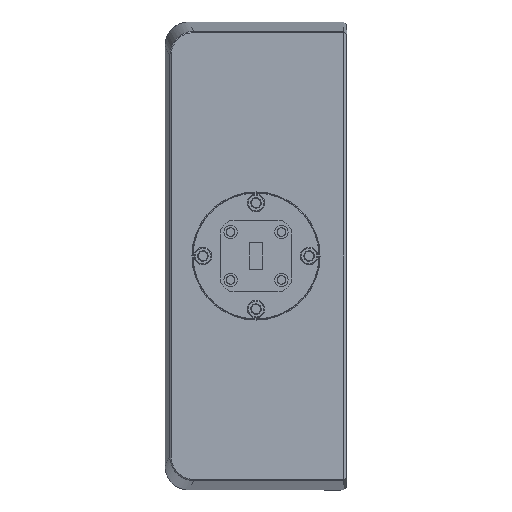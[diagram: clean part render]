
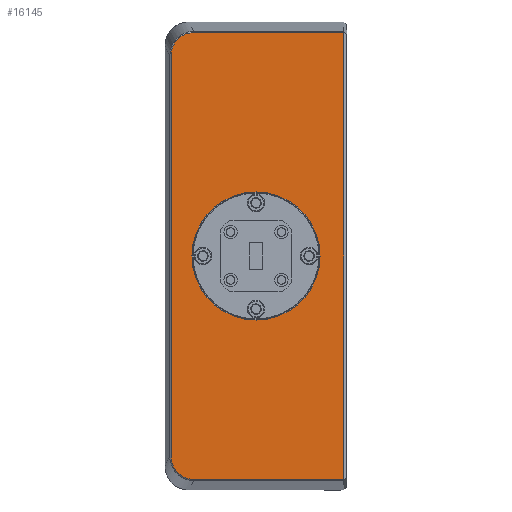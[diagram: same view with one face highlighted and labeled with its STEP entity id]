
A CAD part, left-side view. The second image highlights one B-rep face of the part: STEP entity #16145.
In plain terms, the highlighted planar face has unit normal (-1, 0, 0).
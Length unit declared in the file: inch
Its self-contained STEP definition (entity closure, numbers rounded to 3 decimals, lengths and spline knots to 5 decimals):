
#116 = AXIS2_PLACEMENT_3D ( 'NONE', #36872, #25682, #54497 ) ;
#216 = EDGE_CURVE ( 'NONE', #46378, #32153, #57802, .T. ) ;
#867 = VECTOR ( 'NONE', #53204, 39.37008 ) ;
#1633 = LINE ( 'NONE', #31116, #867 ) ;
#1985 = CARTESIAN_POINT ( 'NONE',  ( -2.75, 9.21525, -2.12976 ) ) ;
#3635 = EDGE_CURVE ( 'NONE', #73770, #46819, #1633, .T. ) ;
#5528 = EDGE_LOOP ( 'NONE', ( #38827, #67004, #17348, #45158, #53009, #73974 ) ) ;
#6521 = DIRECTION ( 'NONE',  ( 0., 0., -1. ) ) ;
#6856 = CARTESIAN_POINT ( 'NONE',  ( -2.75, 8.32758, 0. ) ) ;
#8415 = CARTESIAN_POINT ( 'NONE',  ( -2.75, 9.1247, -2.28822 ) ) ;
#8781 = CARTESIAN_POINT ( 'NONE',  ( -2.75, 9.21525, -2.09869 ) ) ;
#9265 = LINE ( 'NONE', #20571, #26233 ) ;
#11328 = ORIENTED_EDGE ( 'NONE', *, *, #13509, .F. ) ;
#11419 = CARTESIAN_POINT ( 'NONE',  ( -2.75, 9.21525, 0. ) ) ;
#12276 = CARTESIAN_POINT ( 'NONE',  ( -2.75, 9.04166, 2.32944 ) ) ;
#13281 = VECTOR ( 'NONE', #30790, 39.37008 ) ;
#13509 = EDGE_CURVE ( 'NONE', #32153, #46378, #36986, .T. ) ;
#13651 = EDGE_CURVE ( 'NONE', #33827, #73770, #52902, .T. ) ;
#13713 = CARTESIAN_POINT ( 'NONE',  ( -2.75, 9.01084, -2.33561 ) ) ;
#15899 = EDGE_LOOP ( 'NONE', ( #11328, #16124 ) ) ;
#16124 = ORIENTED_EDGE ( 'NONE', *, *, #216, .F. ) ;
#16145 = ADVANCED_FACE ( 'NONE', ( #49700, #67001 ), #39213, .F. ) ;
#16601 = CARTESIAN_POINT ( 'NONE',  ( -2.75, 8.32758, 0.67 ) ) ;
#16775 = VERTEX_POINT ( 'NONE', #42310 ) ;
#16777 = CARTESIAN_POINT ( 'NONE',  ( -2.75, 9.1247, 2.28822 ) ) ;
#17154 = CARTESIAN_POINT ( 'NONE',  ( -2.75, 9.20913, 2.16087 ) ) ;
#17348 = ORIENTED_EDGE ( 'NONE', *, *, #67782, .T. ) ;
#17834 = LINE ( 'NONE', #11419, #65521 ) ;
#18256 = CARTESIAN_POINT ( 'NONE',  ( -2.75, 9.21525, 2.09869 ) ) ;
#19379 = CARTESIAN_POINT ( 'NONE',  ( -2.75, 9.18562, -2.21814 ) ) ;
#19775 = CARTESIAN_POINT ( 'NONE',  ( -2.75, 8.32758, 2.3356 ) ) ;
#20571 = CARTESIAN_POINT ( 'NONE',  ( -2.75, 7.40758, 0. ) ) ;
#22133 = CARTESIAN_POINT ( 'NONE',  ( -2.75, 8.97989, 2.3356 ) ) ;
#25682 = DIRECTION ( 'NONE',  ( -1., 0., 0. ) ) ;
#26233 = VECTOR ( 'NONE', #37471, 39.37008 ) ;
#26557 = CARTESIAN_POINT ( 'NONE',  ( -2.75, 9.20912, -2.16087 ) ) ;
#27829 = CARTESIAN_POINT ( 'NONE',  ( -2.75, 9.21525, 2.12984 ) ) ;
#30790 = DIRECTION ( 'NONE',  ( 0., 1., 0. ) ) ;
#31116 = CARTESIAN_POINT ( 'NONE',  ( -2.75, 8.32758, -2.3356 ) ) ;
#32153 = VERTEX_POINT ( 'NONE', #16601 ) ;
#33827 = VERTEX_POINT ( 'NONE', #48726 ) ;
#34347 = DIRECTION ( 'NONE',  ( 1., 0., 0. ) ) ;
#35952 = DIRECTION ( 'NONE',  ( -1., 0., 0. ) ) ;
#36872 = CARTESIAN_POINT ( 'NONE',  ( -2.75, 8.32758, 0. ) ) ;
#36986 = CIRCLE ( 'NONE', #42994, 0.67 ) ;
#37012 = CARTESIAN_POINT ( 'NONE',  ( -2.75, 8.97989, -2.3356 ) ) ;
#37332 = CARTESIAN_POINT ( 'NONE',  ( -2.75, 8.97989, -2.3356 ) ) ;
#37471 = DIRECTION ( 'NONE',  ( 0., 0., 1. ) ) ;
#38484 = CARTESIAN_POINT ( 'NONE',  ( -2.75, 8.97989, 2.3356 ) ) ;
#38827 = ORIENTED_EDGE ( 'NONE', *, *, #3635, .T. ) ;
#39213 = PLANE ( 'NONE',  #66568 ) ;
#39711 = CARTESIAN_POINT ( 'NONE',  ( -2.75, 9.18562, 2.21814 ) ) ;
#40640 = EDGE_CURVE ( 'NONE', #63647, #33827, #17834, .T. ) ;
#40958 = B_SPLINE_CURVE_WITH_KNOTS ( 'NONE', 3,
 ( #22133, #50977, #12276, #45728, #16777, #68634, #39711, #17154, #27829, #50601 ),
 .UNSPECIFIED., .F., .F.,
 ( 4, 2, 2, 2, 4 ),
 ( 0., 0.25, 0.5, 0.75, 1. ),
 .UNSPECIFIED. ) ;
#42310 = CARTESIAN_POINT ( 'NONE',  ( -2.75, 7.40758, 2.3356 ) ) ;
#42994 = AXIS2_PLACEMENT_3D ( 'NONE', #59164, #35952, #64454 ) ;
#45158 = ORIENTED_EDGE ( 'NONE', *, *, #67726, .T. ) ;
#45728 = CARTESIAN_POINT ( 'NONE',  ( -2.75, 9.09856, 2.30578 ) ) ;
#46378 = VERTEX_POINT ( 'NONE', #64219 ) ;
#46819 = VERTEX_POINT ( 'NONE', #68177 ) ;
#47121 = EDGE_CURVE ( 'NONE', #46819, #16775, #9265, .T. ) ;
#47216 = LINE ( 'NONE', #19775, #13281 ) ;
#48609 = CARTESIAN_POINT ( 'NONE',  ( -2.75, 9.16817, -2.24446 ) ) ;
#48726 = CARTESIAN_POINT ( 'NONE',  ( -2.75, 9.21525, -2.09869 ) ) ;
#48982 = CARTESIAN_POINT ( 'NONE',  ( -2.75, 9.04167, -2.32944 ) ) ;
#49700 = FACE_BOUND ( 'NONE', #15899, .T. ) ;
#50601 = CARTESIAN_POINT ( 'NONE',  ( -2.75, 9.21525, 2.09869 ) ) ;
#50977 = CARTESIAN_POINT ( 'NONE',  ( -2.75, 9.01076, 2.33561 ) ) ;
#52902 = B_SPLINE_CURVE_WITH_KNOTS ( 'NONE', 3,
 ( #8781, #1985, #26557, #19379, #48609, #8415, #54640, #48982, #13713, #37012 ),
 .UNSPECIFIED., .F., .F.,
 ( 4, 2, 2, 2, 4 ),
 ( 0., 0.25, 0.5, 0.75, 1. ),
 .UNSPECIFIED. ) ;
#53009 = ORIENTED_EDGE ( 'NONE', *, *, #40640, .T. ) ;
#53204 = DIRECTION ( 'NONE',  ( 0., -1., 0. ) ) ;
#54497 = DIRECTION ( 'NONE',  ( 0., 0., 1. ) ) ;
#54640 = CARTESIAN_POINT ( 'NONE',  ( -2.75, 9.09856, -2.30578 ) ) ;
#57802 = CIRCLE ( 'NONE', #116, 0.67 ) ;
#59164 = CARTESIAN_POINT ( 'NONE',  ( -2.75, 8.32758, 0. ) ) ;
#63232 = DIRECTION ( 'NONE',  ( 0., 0., -1. ) ) ;
#63647 = VERTEX_POINT ( 'NONE', #18256 ) ;
#64219 = CARTESIAN_POINT ( 'NONE',  ( -2.75, 8.32758, -0.67 ) ) ;
#64454 = DIRECTION ( 'NONE',  ( 0., 0., 1. ) ) ;
#65521 = VECTOR ( 'NONE', #6521, 39.37008 ) ;
#66568 = AXIS2_PLACEMENT_3D ( 'NONE', #6856, #34347, #63232 ) ;
#67001 = FACE_OUTER_BOUND ( 'NONE', #5528, .T. ) ;
#67004 = ORIENTED_EDGE ( 'NONE', *, *, #47121, .T. ) ;
#67726 = EDGE_CURVE ( 'NONE', #73012, #63647, #40958, .T. ) ;
#67782 = EDGE_CURVE ( 'NONE', #16775, #73012, #47216, .T. ) ;
#68177 = CARTESIAN_POINT ( 'NONE',  ( -2.75, 7.40758, -2.3356 ) ) ;
#68634 = CARTESIAN_POINT ( 'NONE',  ( -2.75, 9.16818, 2.24446 ) ) ;
#73012 = VERTEX_POINT ( 'NONE', #38484 ) ;
#73770 = VERTEX_POINT ( 'NONE', #37332 ) ;
#73974 = ORIENTED_EDGE ( 'NONE', *, *, #13651, .T. ) ;
